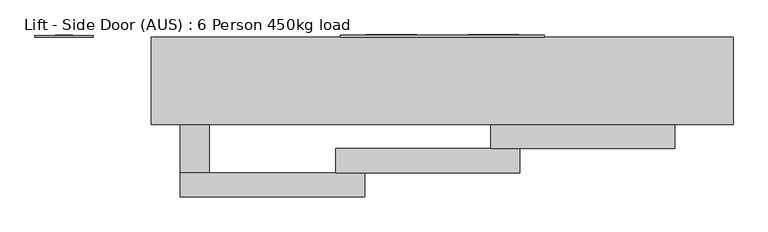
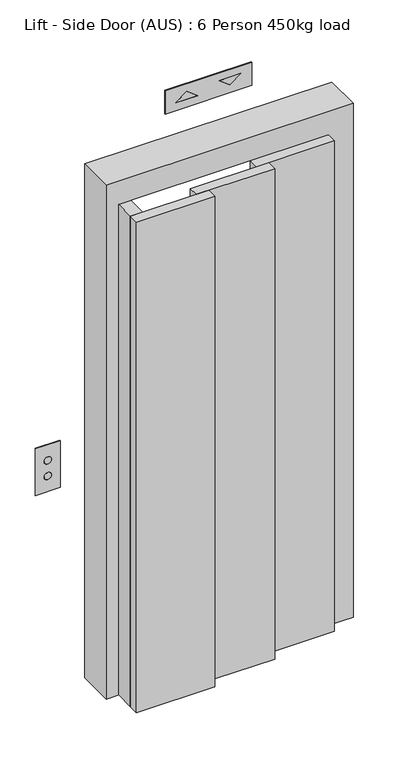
"""IFC4 building model written with IfcOpenShell, lengths in millimetres: proxy geometry, Lift - Side Door (AUS) : 6 Person 450kg load."""

from ifc_helpers import new_model, si_unit, point, frame, frame_2d, origin, origin_with_axes, place, context, project, spatial, polyline, circle_curve, trimmed, segment, composite_curve, outline, extrude, faceted_brep, source, transform, mapped, element, save


def lift_side_door_aus_6_person_450kg_load_f6ec1226(model_context):
    return source(origin(), model_context, "Body", "SolidModel", [
        extrude(outline(polyline([(2366.6666667, 435.1642846), (2366.6666667, 347.6642846), (2333.3333333, 391.4142846), (2366.6666667, 435.1642846)])), frame((0.0, 75.0, 0.0), z_axis=(0.0, 1.0, 0.0), x_axis=(0.0, 0.0, 1.0)), (0.0, 0.0, 1.0), 4.0),
        extrude(outline(polyline([(2333.3333333, 260.1642846), (2366.6666667, 216.4142846), (2333.3333333, 172.6642846), (2333.3333333, 260.1642846)])), frame((0.0, 75.0, 0.0), z_axis=(0.0, 1.0, 0.0), x_axis=(0.0, 0.0, 1.0)), (0.0, 0.0, 1.0), 4.0),
        extrude(outline(polyline([(2400.0, 128.9142846), (2300.0, 128.9142846), (2300.0, 478.9142846), (2400.0, 478.9142846), (2400.0, 128.9142846)]), holes=[polyline([(2333.3333333, 391.4142846), (2366.6666667, 347.6642846), (2366.6666667, 435.1642846), (2333.3333333, 391.4142846)]), polyline([(2366.6666667, 216.4142846), (2333.3333333, 260.1642846), (2333.3333333, 172.6642846), (2366.6666667, 216.4142846)])]), frame((0.0, 75.0, 0.0), z_axis=(0.0, 1.0, 0.0), x_axis=(0.0, 0.0, 1.0)), (0.0, 0.0, 1.0), 3.0),
        extrude(outline(composite_curve([segment(trimmed(circle_curve(frame_2d((983.3333333, -346.0857154)), 15.0), [point((983.3333333, -361.0857154))], [point((983.3333333, -331.0857154))], False, "CARTESIAN"), True, "CONTINUOUS"), segment(trimmed(circle_curve(frame_2d((983.3333333, -346.0857154)), 15.0), [point((983.3333333, -331.0857154))], [point((983.3333333, -361.0857154))], False, "CARTESIAN"), True, "CONTINUOUS")], self_intersect=False)), frame((0.0, 75.0, 0.0), z_axis=(0.0, 1.0, 0.0), x_axis=(0.0, 0.0, 1.0)), (0.0, 0.0, 1.0), 4.0),
        extrude(outline(composite_curve([segment(trimmed(circle_curve(frame_2d((916.6666667, -346.0857154)), 15.0), [point((916.6666667, -361.0857154))], [point((916.6666667, -331.0857154))], False, "CARTESIAN"), True, "CONTINUOUS"), segment(trimmed(circle_curve(frame_2d((916.6666667, -346.0857154)), 15.0), [point((916.6666667, -331.0857154))], [point((916.6666667, -361.0857154))], False, "CARTESIAN"), True, "CONTINUOUS")], self_intersect=False)), frame((0.0, 75.0, 0.0), z_axis=(0.0, 1.0, 0.0), x_axis=(0.0, 0.0, 1.0)), (0.0, 0.0, 1.0), 4.0),
        extrude(outline(polyline([(1050.0, -396.0857154), (850.0, -396.0857154), (850.0, -296.0857154), (1050.0, -296.0857154), (1050.0, -396.0857154)]), holes=[composite_curve([segment(trimmed(circle_curve(frame_2d((983.3333333, -346.0857154)), 15.0), [point((983.3333333, -361.0857154))], [point((983.3333333, -331.0857154))], True, "CARTESIAN"), True, "CONTINUOUS"), segment(trimmed(circle_curve(frame_2d((983.3333333, -346.0857154)), 15.0), [point((983.3333333, -331.0857154))], [point((983.3333333, -361.0857154))], True, "CARTESIAN"), True, "CONTINUOUS")], self_intersect=False), composite_curve([segment(trimmed(circle_curve(frame_2d((916.6666667, -346.0857154)), 15.0), [point((916.6666667, -361.0857154))], [point((916.6666667, -331.0857154))], True, "CARTESIAN"), True, "CONTINUOUS"), segment(trimmed(circle_curve(frame_2d((916.6666667, -346.0857154)), 15.0), [point((916.6666667, -331.0857154))], [point((916.6666667, -361.0857154))], True, "CARTESIAN"), True, "CONTINUOUS")], self_intersect=False)]), frame((0.0, 75.0, 0.0), z_axis=(0.0, 1.0, 0.0), x_axis=(0.0, 0.0, 1.0)), (0.0, 0.0, 1.0), 3.0),
        faceted_brep([(-196.0857154, -75.0, 0.0), (-196.0857154, 75.0, 0.0), (-146.0857154, 75.0, 0.0), (-146.0857154, 0.0, 0.0), (-96.0857154, 0.0, 0.0), (-96.0857154, -75.0, 0.0), (-196.0857154, -75.0, 2200.0), (-196.0857154, 75.0, 2200.0), (803.9142846, 75.0, 2200.0), (803.9142846, 75.0, 0.0), (753.9142846, 75.0, 0.0), (753.9142846, 75.0, 2150.0), (-146.0857154, 75.0, 2150.0), (-146.0857154, 0.0, 2150.0), (753.9142846, 0.0, 2150.0), (753.9142846, 0.0, 0.0), (703.9142846, 0.0, 0.0), (703.9142846, 0.0, 2100.0), (-96.0857154, 0.0, 2100.0), (-96.0857154, -75.0, 2100.0), (703.9142846, -75.0, 2100.0), (703.9142846, -75.0, 0.0), (803.9142846, -75.0, 0.0), (803.9142846, -75.0, 2200.0)], [[[0, 1, 2, 3, 4, 5]], [[1, 0, 6, 7]], [[2, 1, 7, 8, 9, 10, 11, 12]], [[3, 2, 12, 13]], [[4, 3, 13, 14, 15, 16, 17, 18]], [[5, 4, 18, 19]], [[0, 5, 19, 20, 21, 22, 23, 6]], [[7, 6, 23, 8]], [[13, 12, 11, 14]], [[19, 18, 17, 20]], [[22, 21, 16, 15, 10, 9]], [[8, 23, 22, 9]], [[14, 11, 10, 15]], [[20, 17, 16, 21]]]),
        extrude(outline(polyline([(387.2476179, -116.6666667), (387.2476179, -75.0), (703.9142846, -75.0), (703.9142846, -116.6666667), (387.2476179, -116.6666667)])), origin_with_axes(), (0.0, 0.0, 1.0), 2100.0),
        extrude(outline(polyline([(120.5809512, -158.3333333), (120.5809512, -116.6666667), (437.2476179, -116.6666667), (437.2476179, -158.3333333), (120.5809512, -158.3333333)])), origin_with_axes(), (0.0, 0.0, 1.0), 2100.0),
        extrude(outline(polyline([(-146.0857154, -158.3333333), (170.5809512, -158.3333333), (170.5809512, -200.0), (-146.0857154, -200.0), (-146.0857154, -158.3333333)])), origin_with_axes(), (0.0, 0.0, 1.0), 2100.0),
        extrude(outline(polyline([(-146.0857154, -75.0), (-96.0857154, -75.0), (-96.0857154, -158.3333333), (-146.0857154, -158.3333333), (-146.0857154, -75.0)])), origin_with_axes(), (0.0, 0.0, 1.0), 2100.0),
    ])


if __name__ == "__main__":
    model = new_model("IFC4")
    model_context = context("Model", 3, world=origin())
    ifc_project = project(units=[si_unit("LENGTHUNIT", "METRE", prefix="MILLI")], contexts=[model_context])
    site = spatial("IfcSite", under=ifc_project)
    building = spatial("IfcBuilding", under=site)
    placement = place(None, origin())
    lift_side_door_aus_6_person_450kg_load_shape = lift_side_door_aus_6_person_450kg_load_f6ec1226(model_context)
    element("IfcBuildingElementProxy", 1, Name="Lift - Side Door (AUS) : 6 Person 450kg load", ObjectType="Lift - Side Door (AUS) : 6 Person 450kg load", at=placement, inside=building, context=model_context, shape_type="MappedRepresentation", body=[
        mapped(lift_side_door_aus_6_person_450kg_load_shape, transform((0.0, 0.0, 0.0), x_axis=(1.0, 0.0, 0.0), y_axis=(0.0, 1.0, 0.0), z_axis=(0.0, 0.0, 1.0))),
    ])
    save(model, "model.ifc")
